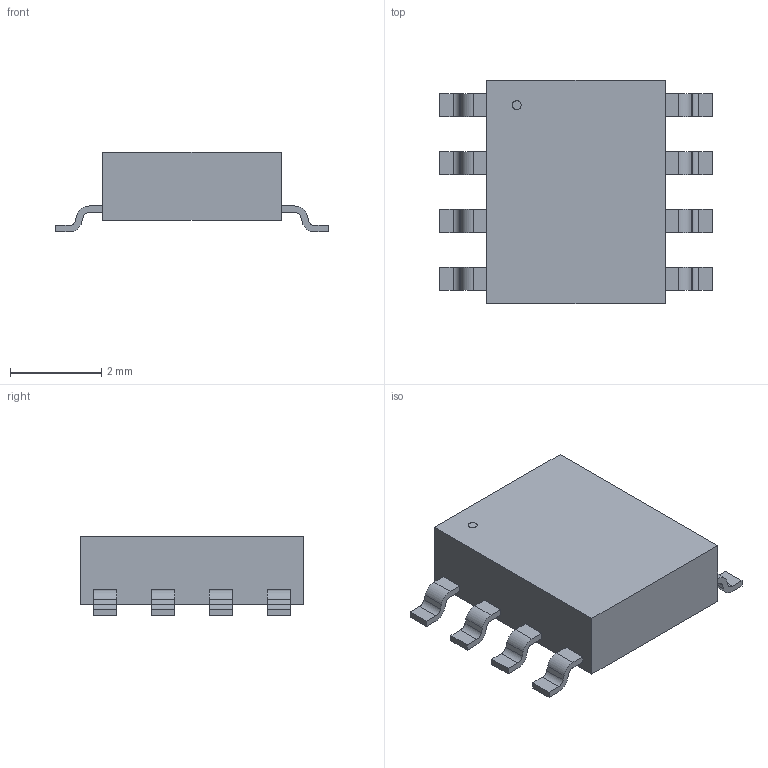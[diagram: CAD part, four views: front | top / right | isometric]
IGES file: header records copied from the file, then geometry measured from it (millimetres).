
Global section: file name: Filename.iges; native system: Open CASCADE 7.7; preprocessor: Open CASCADE IGES processor 7.7; author: SYSTEM; date: 20240206.183737; units: millimetre
Bounding box: 5.99 x 4.9 x 1.75 mm (x, y, z)
Surface area: 79.3 mm2 (no closed solid volume)
Topology: 0 solids, 0 shells, 121 faces, 606 edges, 604 vertices
Faces by surface type: plane 88, revolution 33
